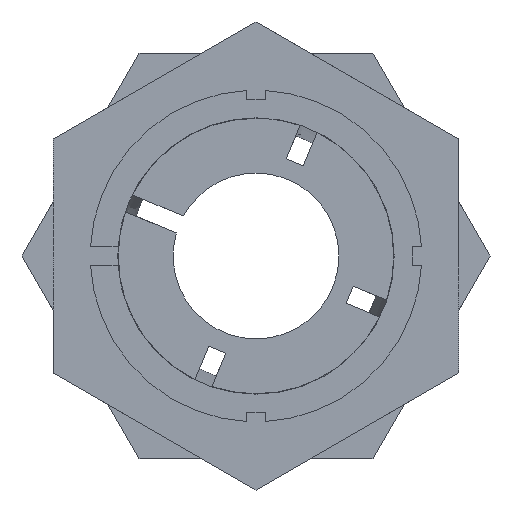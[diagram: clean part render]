
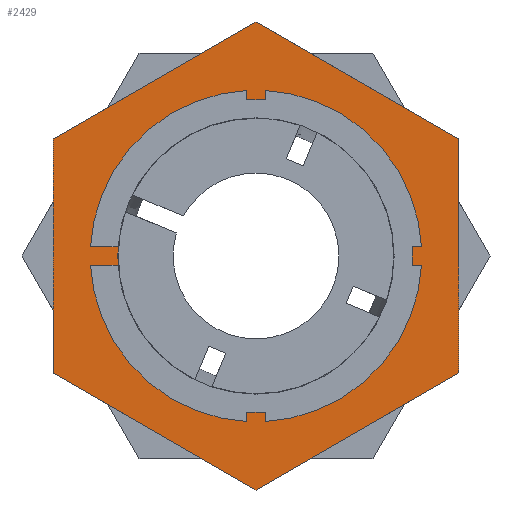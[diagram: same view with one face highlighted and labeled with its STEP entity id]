
A CAD part, left-side view. The second image highlights one B-rep face of the part: STEP entity #2429.
In plain terms, the highlighted planar face has unit normal (-1, 0, 0).
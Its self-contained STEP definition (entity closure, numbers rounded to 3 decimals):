
#75 = AXIS2_PLACEMENT_3D ( 'NONE', #568, #576, #577 ) ;
#76 = EDGE_CURVE ( 'NONE', #471, #472, #1696, .T. ) ;
#85 = EDGE_CURVE ( 'NONE', #467, #468, #1935, .T. ) ;
#89 = EDGE_CURVE ( 'NONE', #470, #471, #1940, .T. ) ;
#90 = EDGE_CURVE ( 'NONE', #473, #474, #1942, .T. ) ;
#91 = EDGE_CURVE ( 'NONE', #472, #473, #1944, .T. ) ;
#92 = EDGE_CURVE ( 'NONE', #468, #467, #1948, .T. ) ;
#93 = EDGE_CURVE ( 'NONE', #469, #470, #1936, .T. ) ;
#95 = EDGE_CURVE ( 'NONE', #474, #469, #1951, .T. ) ;
#278 = AXIS2_PLACEMENT_3D ( 'NONE', #559, #560, #561 ) ;
#333 = AXIS2_PLACEMENT_3D ( 'NONE', #1269, #1272, #1273 ) ;
#409 = CARTESIAN_POINT ( 'NONE',  ( 12.52, 0., -12.702 ) ) ;
#467 = VERTEX_POINT ( 'NONE', #1076 ) ;
#468 = VERTEX_POINT ( 'NONE', #1077 ) ;
#469 = VERTEX_POINT ( 'NONE', #1078 ) ;
#470 = VERTEX_POINT ( 'NONE', #1079 ) ;
#471 = VERTEX_POINT ( 'NONE', #1080 ) ;
#472 = VERTEX_POINT ( 'NONE', #1081 ) ;
#473 = VERTEX_POINT ( 'NONE', #1082 ) ;
#474 = VERTEX_POINT ( 'NONE', #1083 ) ;
#541 = DIRECTION ( 'NONE',  ( 0., -0.866, -0.5 ) ) ;
#559 = CARTESIAN_POINT ( 'NONE',  ( 12.52, 0., 0. ) ) ;
#560 = DIRECTION ( 'NONE',  ( -1., 0., 0. ) ) ;
#561 = DIRECTION ( 'NONE',  ( 0., 0., 1. ) ) ;
#568 = CARTESIAN_POINT ( 'NONE',  ( 12.52, 0., 0. ) ) ;
#570 = CARTESIAN_POINT ( 'NONE',  ( 12.52, 11., -6.351 ) ) ;
#571 = DIRECTION ( 'NONE',  ( 0., 0., -1. ) ) ;
#572 = CARTESIAN_POINT ( 'NONE',  ( 12.52, -11., 6.351 ) ) ;
#573 = DIRECTION ( 'NONE',  ( 0., 0., 1. ) ) ;
#574 = CARTESIAN_POINT ( 'NONE',  ( 12.52, -11., -6.351 ) ) ;
#575 = DIRECTION ( 'NONE',  ( 0., -0.866, 0.5 ) ) ;
#576 = DIRECTION ( 'NONE',  ( -1., 0., 0. ) ) ;
#577 = DIRECTION ( 'NONE',  ( 0., 0., 1. ) ) ;
#578 = CARTESIAN_POINT ( 'NONE',  ( 12.52, 11., 6.351 ) ) ;
#579 = DIRECTION ( 'NONE',  ( 0., 0.866, -0.5 ) ) ;
#582 = CARTESIAN_POINT ( 'NONE',  ( 12.52, 0., 12.702 ) ) ;
#583 = DIRECTION ( 'NONE',  ( 0., 0.866, 0.5 ) ) ;
#1076 = CARTESIAN_POINT ( 'NONE',  ( 12.52, 0., -7.501 ) ) ;
#1077 = CARTESIAN_POINT ( 'NONE',  ( 12.52, 0., 7.501 ) ) ;
#1078 = CARTESIAN_POINT ( 'NONE',  ( 12.52, 0., 12.702 ) ) ;
#1079 = CARTESIAN_POINT ( 'NONE',  ( 12.52, 11., 6.351 ) ) ;
#1080 = CARTESIAN_POINT ( 'NONE',  ( 12.52, 11., -6.351 ) ) ;
#1081 = CARTESIAN_POINT ( 'NONE',  ( 12.52, 0., -12.702 ) ) ;
#1082 = CARTESIAN_POINT ( 'NONE',  ( 12.52, -11., -6.351 ) ) ;
#1083 = CARTESIAN_POINT ( 'NONE',  ( 12.52, -11., 6.351 ) ) ;
#1269 = CARTESIAN_POINT ( 'NONE',  ( 12.52, 50., 0. ) ) ;
#1270 = PLANE ( 'NONE',  #333 ) ;
#1272 = DIRECTION ( 'NONE',  ( 1., 0., 0. ) ) ;
#1273 = DIRECTION ( 'NONE',  ( 0., 0., -1. ) ) ;
#1466 = VECTOR ( 'NONE', #541, 1000. ) ;
#1598 = ORIENTED_EDGE ( 'NONE', *, *, #92, .F. ) ;
#1599 = ORIENTED_EDGE ( 'NONE', *, *, #85, .F. ) ;
#1600 = ORIENTED_EDGE ( 'NONE', *, *, #93, .T. ) ;
#1601 = ORIENTED_EDGE ( 'NONE', *, *, #89, .T. ) ;
#1602 = ORIENTED_EDGE ( 'NONE', *, *, #76, .T. ) ;
#1603 = ORIENTED_EDGE ( 'NONE', *, *, #91, .T. ) ;
#1604 = ORIENTED_EDGE ( 'NONE', *, *, #90, .T. ) ;
#1605 = ORIENTED_EDGE ( 'NONE', *, *, #95, .T. ) ;
#1641 = EDGE_LOOP ( 'NONE', ( #1598, #1599 ) ) ;
#1653 = EDGE_LOOP ( 'NONE', ( #1600, #1601, #1602, #1603, #1604, #1605 ) ) ;
#1696 = LINE ( 'NONE', #409, #1466 ) ;
#1935 = CIRCLE ( 'NONE', #278, 7.501 ) ;
#1936 = LINE ( 'NONE', #578, #1937 ) ;
#1937 = VECTOR ( 'NONE', #579, 1000. ) ;
#1940 = LINE ( 'NONE', #570, #1941 ) ;
#1941 = VECTOR ( 'NONE', #571, 1000. ) ;
#1942 = LINE ( 'NONE', #572, #1943 ) ;
#1943 = VECTOR ( 'NONE', #573, 1000. ) ;
#1944 = LINE ( 'NONE', #574, #1945 ) ;
#1945 = VECTOR ( 'NONE', #575, 1000. ) ;
#1948 = CIRCLE ( 'NONE', #75, 7.501 ) ;
#1951 = LINE ( 'NONE', #582, #1952 ) ;
#1952 = VECTOR ( 'NONE', #583, 1000. ) ;
#2304 = FACE_BOUND ( 'NONE', #1641, .T. ) ;
#2309 = FACE_OUTER_BOUND ( 'NONE', #1653, .T. ) ;
#2429 = ADVANCED_FACE ( 'NONE', ( #2304, #2309 ), #1270, .F. ) ;
